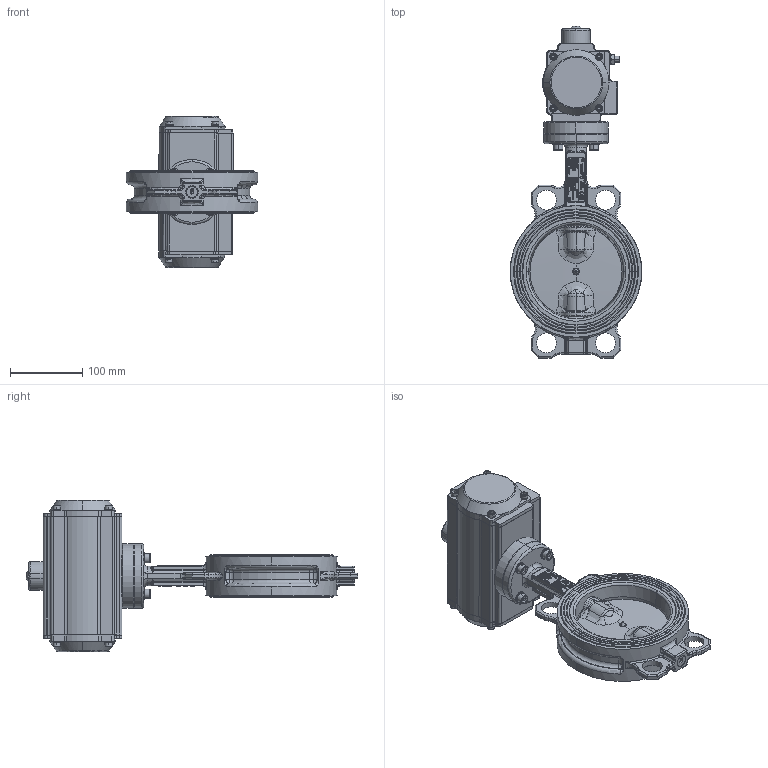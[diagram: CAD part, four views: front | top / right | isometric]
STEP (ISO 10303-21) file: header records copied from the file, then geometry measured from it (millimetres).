
FILE_DESCRIPTION (( 'STEP AP203' ), '1' );
FILE_NAME ('VPN-03 DN125.STEP', '2014-06-20T08:21:55', ( 'FAREX' ), ( '' ), 'SwSTEP 2.0', 'SolidWorks 2011', '' );
FILE_SCHEMA (( 'CONFIG_CONTROL_DESIGN' ));
Products named in the file (1): VPN-03 DN125
Bounding box: 182.5 x 460.62 x 210.28 mm (x, y, z)
Volume: 1980432.1 mm3; surface area: 557967.4 mm2
Topology: 68 solids, 68 shells, 5084 faces, 12970 edges, 8402 vertices
Faces by surface type: plane 2239, bspline 1488, cylinder 841, cone 279, torus 223, sphere 14
Entity records: 230408 total; most frequent: CARTESIAN_POINT 117467, ORIENTED_EDGE 25828, DIRECTION 18792, EDGE_CURVE 12914, VERTEX_POINT 8400, LINE 6798, VECTOR 6798, AXIS2_PLACEMENT_3D 5997
